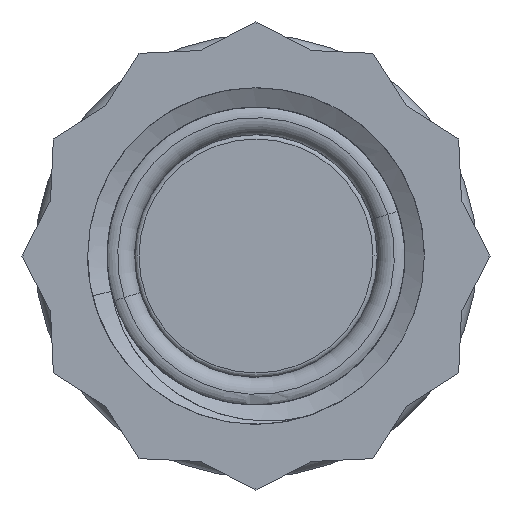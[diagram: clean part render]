
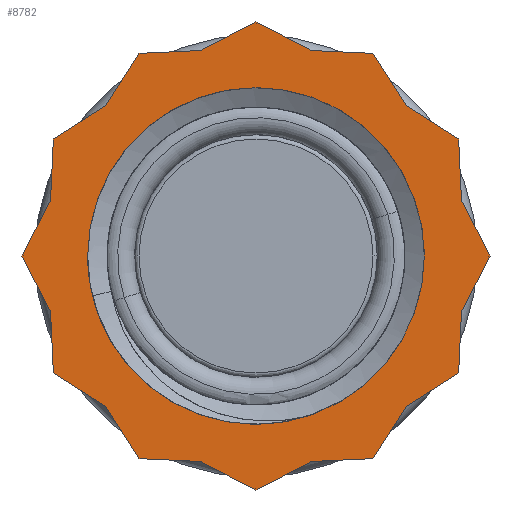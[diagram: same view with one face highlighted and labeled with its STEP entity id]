
A CAD part, left-side view. The second image highlights one B-rep face of the part: STEP entity #8782.
In plain terms, the highlighted planar face has unit normal (-1, 0, 0).
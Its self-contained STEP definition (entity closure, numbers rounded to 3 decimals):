
#6028=DIRECTION('',(0.,-0.999,-0.046));
#6029=VECTOR('',#6028,1.457);
#6030=CARTESIAN_POINT('',(-77.2,-1.294,4.83));
#6031=LINE('',#6030,#6029);
#6032=DIRECTION('',(0.,-0.539,-0.842));
#6033=VECTOR('',#6032,1.457);
#6034=CARTESIAN_POINT('',(-77.2,-2.75,4.763));
#6035=LINE('',#6034,#6033);
#6036=DIRECTION('',(0.,-0.842,-0.539));
#6037=VECTOR('',#6036,1.457);
#6038=CARTESIAN_POINT('',(-77.2,-3.536,3.536));
#6039=LINE('',#6038,#6037);
#6040=DIRECTION('',(0.,-0.046,-0.999));
#6041=VECTOR('',#6040,1.457);
#6042=CARTESIAN_POINT('',(-77.2,-4.763,2.75));
#6043=LINE('',#6042,#6041);
#6044=DIRECTION('',(0.,-0.46,-0.888));
#6045=VECTOR('',#6044,1.457);
#6046=CARTESIAN_POINT('',(-77.2,-4.83,1.294));
#6047=LINE('',#6046,#6045);
#6048=DIRECTION('',(0.,0.46,-0.888));
#6049=VECTOR('',#6048,1.457);
#6050=CARTESIAN_POINT('',(-77.2,-5.5,0.));
#6051=LINE('',#6050,#6049);
#6052=DIRECTION('',(0.,0.046,-0.999));
#6053=VECTOR('',#6052,1.457);
#6054=CARTESIAN_POINT('',(-77.2,-4.83,-1.294));
#6055=LINE('',#6054,#6053);
#6056=DIRECTION('',(0.,0.842,-0.539));
#6057=VECTOR('',#6056,1.457);
#6058=CARTESIAN_POINT('',(-77.2,-4.763,-2.75));
#6059=LINE('',#6058,#6057);
#6060=DIRECTION('',(0.,0.539,-0.842));
#6061=VECTOR('',#6060,1.457);
#6062=CARTESIAN_POINT('',(-77.2,-3.536,-3.536));
#6063=LINE('',#6062,#6061);
#6064=DIRECTION('',(0.,0.999,-0.046));
#6065=VECTOR('',#6064,1.457);
#6066=CARTESIAN_POINT('',(-77.2,-2.75,-4.763));
#6067=LINE('',#6066,#6065);
#6068=DIRECTION('',(0.,0.888,-0.46));
#6069=VECTOR('',#6068,1.457);
#6070=CARTESIAN_POINT('',(-77.2,-1.294,-4.83));
#6071=LINE('',#6070,#6069);
#6072=DIRECTION('',(0.,0.888,0.46));
#6073=VECTOR('',#6072,1.457);
#6074=CARTESIAN_POINT('',(-77.2,0.,-5.5));
#6075=LINE('',#6074,#6073);
#6076=DIRECTION('',(0.,0.999,0.046));
#6077=VECTOR('',#6076,1.457);
#6078=CARTESIAN_POINT('',(-77.2,1.294,-4.83));
#6079=LINE('',#6078,#6077);
#6080=DIRECTION('',(0.,0.539,0.842));
#6081=VECTOR('',#6080,1.457);
#6082=CARTESIAN_POINT('',(-77.2,2.75,-4.763));
#6083=LINE('',#6082,#6081);
#6084=DIRECTION('',(0.,0.842,0.539));
#6085=VECTOR('',#6084,1.457);
#6086=CARTESIAN_POINT('',(-77.2,3.536,-3.536));
#6087=LINE('',#6086,#6085);
#6088=DIRECTION('',(0.,0.046,0.999));
#6089=VECTOR('',#6088,1.457);
#6090=CARTESIAN_POINT('',(-77.2,4.763,-2.75));
#6091=LINE('',#6090,#6089);
#6092=DIRECTION('',(0.,0.46,0.888));
#6093=VECTOR('',#6092,1.457);
#6094=CARTESIAN_POINT('',(-77.2,4.83,-1.294));
#6095=LINE('',#6094,#6093);
#6096=DIRECTION('',(0.,-0.46,0.888));
#6097=VECTOR('',#6096,1.457);
#6098=CARTESIAN_POINT('',(-77.2,5.5,0.));
#6099=LINE('',#6098,#6097);
#6100=DIRECTION('',(0.,-0.046,0.999));
#6101=VECTOR('',#6100,1.457);
#6102=CARTESIAN_POINT('',(-77.2,4.83,1.294));
#6103=LINE('',#6102,#6101);
#6104=DIRECTION('',(0.,-0.842,0.539));
#6105=VECTOR('',#6104,1.457);
#6106=CARTESIAN_POINT('',(-77.2,4.763,2.75));
#6107=LINE('',#6106,#6105);
#6108=DIRECTION('',(0.,-0.539,0.842));
#6109=VECTOR('',#6108,1.457);
#6110=CARTESIAN_POINT('',(-77.2,3.536,3.536));
#6111=LINE('',#6110,#6109);
#6112=DIRECTION('',(0.,-0.999,0.046));
#6113=VECTOR('',#6112,1.457);
#6114=CARTESIAN_POINT('',(-77.2,2.75,4.763));
#6115=LINE('',#6114,#6113);
#6116=DIRECTION('',(0.,-0.888,0.46));
#6117=VECTOR('',#6116,1.457);
#6118=CARTESIAN_POINT('',(-77.2,1.294,4.83));
#6119=LINE('',#6118,#6117);
#6120=DIRECTION('',(0.,-0.888,-0.46));
#6121=VECTOR('',#6120,1.457);
#6122=CARTESIAN_POINT('',(-77.2,0.,5.5));
#6123=LINE('',#6122,#6121);
#6124=CARTESIAN_POINT('',(-77.2,0.,0.));
#6125=DIRECTION('',(-1.,0.,0.));
#6126=DIRECTION('',(0.,1.,0.));
#6127=AXIS2_PLACEMENT_3D('',#6124,#6125,#6126);
#6129=CARTESIAN_POINT('',(-77.2,0.,0.));
#6130=DIRECTION('',(-1.,0.,0.));
#6131=DIRECTION('',(0.,-1.,0.));
#6132=AXIS2_PLACEMENT_3D('',#6129,#6130,#6131);
#7540=CARTESIAN_POINT('',(-77.2,-1.294,4.83));
#7541=CARTESIAN_POINT('',(-77.2,-2.75,4.763));
#7542=VERTEX_POINT('',#7540);
#7543=VERTEX_POINT('',#7541);
#7544=CARTESIAN_POINT('',(-77.2,0.,5.5));
#7545=VERTEX_POINT('',#7544);
#7546=CARTESIAN_POINT('',(-77.2,1.294,4.83));
#7547=VERTEX_POINT('',#7546);
#7548=CARTESIAN_POINT('',(-77.2,2.75,4.763));
#7549=VERTEX_POINT('',#7548);
#7550=CARTESIAN_POINT('',(-77.2,3.536,3.536));
#7551=VERTEX_POINT('',#7550);
#7552=CARTESIAN_POINT('',(-77.2,4.763,2.75));
#7553=VERTEX_POINT('',#7552);
#7554=CARTESIAN_POINT('',(-77.2,4.83,1.294));
#7555=VERTEX_POINT('',#7554);
#7556=CARTESIAN_POINT('',(-77.2,5.5,0.));
#7557=VERTEX_POINT('',#7556);
#7558=CARTESIAN_POINT('',(-77.2,4.83,-1.294));
#7559=VERTEX_POINT('',#7558);
#7560=CARTESIAN_POINT('',(-77.2,4.763,-2.75));
#7561=VERTEX_POINT('',#7560);
#7562=CARTESIAN_POINT('',(-77.2,3.536,-3.536));
#7563=VERTEX_POINT('',#7562);
#7564=CARTESIAN_POINT('',(-77.2,2.75,-4.763));
#7565=VERTEX_POINT('',#7564);
#7566=CARTESIAN_POINT('',(-77.2,1.294,-4.83));
#7567=VERTEX_POINT('',#7566);
#7568=CARTESIAN_POINT('',(-77.2,0.,-5.5));
#7569=VERTEX_POINT('',#7568);
#7570=CARTESIAN_POINT('',(-77.2,-1.294,-4.83));
#7571=VERTEX_POINT('',#7570);
#7572=CARTESIAN_POINT('',(-77.2,-2.75,-4.763));
#7573=VERTEX_POINT('',#7572);
#7574=CARTESIAN_POINT('',(-77.2,-3.536,-3.536));
#7575=VERTEX_POINT('',#7574);
#7576=CARTESIAN_POINT('',(-77.2,-4.763,-2.75));
#7577=VERTEX_POINT('',#7576);
#7578=CARTESIAN_POINT('',(-77.2,-4.83,-1.294));
#7579=VERTEX_POINT('',#7578);
#7580=CARTESIAN_POINT('',(-77.2,-5.5,0.));
#7581=VERTEX_POINT('',#7580);
#7582=CARTESIAN_POINT('',(-77.2,-4.83,1.294));
#7583=VERTEX_POINT('',#7582);
#7584=CARTESIAN_POINT('',(-77.2,-4.763,2.75));
#7585=VERTEX_POINT('',#7584);
#7586=CARTESIAN_POINT('',(-77.2,-3.536,3.536));
#7587=VERTEX_POINT('',#7586);
#7588=CARTESIAN_POINT('',(-77.2,3.957,0.));
#7589=CARTESIAN_POINT('',(-77.2,-3.957,0.));
#7590=VERTEX_POINT('',#7588);
#7591=VERTEX_POINT('',#7589);
#8745=CARTESIAN_POINT('',(-77.2,0.,0.));
#8746=DIRECTION('',(1.,0.,0.));
#8747=DIRECTION('',(0.,1.,0.));
#8748=AXIS2_PLACEMENT_3D('',#8745,#8746,#8747);
#8749=PLANE('',#8748);
#8750=ORIENTED_EDGE('',*,*,#8544,.T.);
#8751=ORIENTED_EDGE('',*,*,#8565,.T.);
#8752=ORIENTED_EDGE('',*,*,#8586,.T.);
#8753=ORIENTED_EDGE('',*,*,#8607,.T.);
#8754=ORIENTED_EDGE('',*,*,#8628,.T.);
#8755=ORIENTED_EDGE('',*,*,#8649,.T.);
#8756=ORIENTED_EDGE('',*,*,#8670,.T.);
#8757=ORIENTED_EDGE('',*,*,#8691,.T.);
#8758=ORIENTED_EDGE('',*,*,#8712,.T.);
#8759=ORIENTED_EDGE('',*,*,#8732,.T.);
#8760=ORIENTED_EDGE('',*,*,#8249,.T.);
#8761=ORIENTED_EDGE('',*,*,#8271,.T.);
#8762=ORIENTED_EDGE('',*,*,#8292,.T.);
#8763=ORIENTED_EDGE('',*,*,#8313,.T.);
#8764=ORIENTED_EDGE('',*,*,#8334,.T.);
#8765=ORIENTED_EDGE('',*,*,#8355,.T.);
#8766=ORIENTED_EDGE('',*,*,#8376,.T.);
#8767=ORIENTED_EDGE('',*,*,#8397,.T.);
#8768=ORIENTED_EDGE('',*,*,#8418,.T.);
#8769=ORIENTED_EDGE('',*,*,#8439,.T.);
#8770=ORIENTED_EDGE('',*,*,#8460,.T.);
#8771=ORIENTED_EDGE('',*,*,#8481,.T.);
#8772=ORIENTED_EDGE('',*,*,#8502,.T.);
#8773=ORIENTED_EDGE('',*,*,#8523,.T.);
#8774=EDGE_LOOP('',(#8750,#8751,#8752,#8753,#8754,#8755,#8756,#8757,#8758,#8759,
#8760,#8761,#8762,#8763,#8764,#8765,#8766,#8767,#8768,#8769,#8770,#8771,#8772,
#8773));
#8775=FACE_OUTER_BOUND('',#8774,.F.);
#8777=ORIENTED_EDGE('',*,*,#8776,.T.);
#8779=ORIENTED_EDGE('',*,*,#8778,.T.);
#8780=EDGE_LOOP('',(#8777,#8779));
#8781=FACE_BOUND('',#8780,.F.);
#8782=ADVANCED_FACE('',(#8775,#8781),#8749,.F.);
#6128=CIRCLE('',#6127,3.957);
#6133=CIRCLE('',#6132,3.957);
#8249=EDGE_CURVE('',#7571,#7569,#6071,.T.);
#8271=EDGE_CURVE('',#7569,#7567,#6075,.T.);
#8292=EDGE_CURVE('',#7567,#7565,#6079,.T.);
#8313=EDGE_CURVE('',#7565,#7563,#6083,.T.);
#8334=EDGE_CURVE('',#7563,#7561,#6087,.T.);
#8355=EDGE_CURVE('',#7561,#7559,#6091,.T.);
#8376=EDGE_CURVE('',#7559,#7557,#6095,.T.);
#8397=EDGE_CURVE('',#7557,#7555,#6099,.T.);
#8418=EDGE_CURVE('',#7555,#7553,#6103,.T.);
#8439=EDGE_CURVE('',#7553,#7551,#6107,.T.);
#8460=EDGE_CURVE('',#7551,#7549,#6111,.T.);
#8481=EDGE_CURVE('',#7549,#7547,#6115,.T.);
#8502=EDGE_CURVE('',#7547,#7545,#6119,.T.);
#8523=EDGE_CURVE('',#7545,#7542,#6123,.T.);
#8544=EDGE_CURVE('',#7542,#7543,#6031,.T.);
#8565=EDGE_CURVE('',#7543,#7587,#6035,.T.);
#8586=EDGE_CURVE('',#7587,#7585,#6039,.T.);
#8607=EDGE_CURVE('',#7585,#7583,#6043,.T.);
#8628=EDGE_CURVE('',#7583,#7581,#6047,.T.);
#8649=EDGE_CURVE('',#7581,#7579,#6051,.T.);
#8670=EDGE_CURVE('',#7579,#7577,#6055,.T.);
#8691=EDGE_CURVE('',#7577,#7575,#6059,.T.);
#8712=EDGE_CURVE('',#7575,#7573,#6063,.T.);
#8732=EDGE_CURVE('',#7573,#7571,#6067,.T.);
#8776=EDGE_CURVE('',#7590,#7591,#6128,.T.);
#8778=EDGE_CURVE('',#7591,#7590,#6133,.T.);
